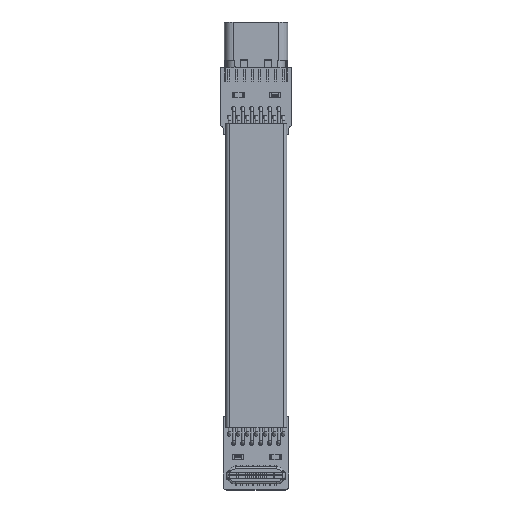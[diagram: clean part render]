
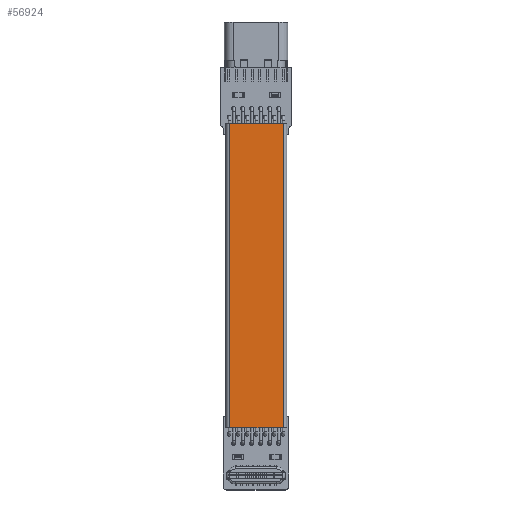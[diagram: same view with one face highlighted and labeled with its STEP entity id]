
A CAD part, top view. The second image highlights one B-rep face of the part: STEP entity #56924.
In plain terms, the highlighted planar face has unit normal (0, 0, 1) as drawn and (0, 1, 0) by its records, which use the part's own axes.
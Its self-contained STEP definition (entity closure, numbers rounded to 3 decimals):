
#56448 = VERTEX_POINT('',#56449);
#56449 = CARTESIAN_POINT('',(-0.001,-0.201,43.));
#56456 = EDGE_CURVE('',#56448,#56457,#56459,.T.);
#56457 = VERTEX_POINT('',#56458);
#56458 = CARTESIAN_POINT('',(-7.621,-0.201,43.));
#56459 = LINE('',#56460,#56461);
#56460 = CARTESIAN_POINT('',(-7.621,-0.201,43.));
#56461 = VECTOR('',#56462,1.);
#56462 = DIRECTION('',(-1.,0.,0.));
#56625 = VERTEX_POINT('',#56626);
#56626 = CARTESIAN_POINT('',(-0.001,-0.201,
    0.));
#56642 = VERTEX_POINT('',#56643);
#56643 = CARTESIAN_POINT('',(-7.621,-0.201,0.));
#56650 = EDGE_CURVE('',#56625,#56642,#56651,.T.);
#56651 = LINE('',#56652,#56653);
#56652 = CARTESIAN_POINT('',(-7.621,-0.201,0.));
#56653 = VECTOR('',#56654,1.);
#56654 = DIRECTION('',(-1.,0.,0.));
#56880 = EDGE_CURVE('',#56625,#56448,#56881,.T.);
#56881 = LINE('',#56882,#56883);
#56882 = CARTESIAN_POINT('',(-0.001,-0.201,
    0.));
#56883 = VECTOR('',#56884,1.);
#56884 = DIRECTION('',(0.,0.,1.));
#56912 = EDGE_CURVE('',#56642,#56457,#56913,.T.);
#56913 = LINE('',#56914,#56915);
#56914 = CARTESIAN_POINT('',(-7.621,-0.201,0.));
#56915 = VECTOR('',#56916,1.);
#56916 = DIRECTION('',(0.,0.,1.));
#56924 = ADVANCED_FACE('',(#56925),#56931,.T.);
#56925 = FACE_BOUND('',#56926,.T.);
#56926 = EDGE_LOOP('',(#56927,#56928,#56929,#56930));
#56927 = ORIENTED_EDGE('',*,*,#56456,.F.);
#56928 = ORIENTED_EDGE('',*,*,#56880,.F.);
#56929 = ORIENTED_EDGE('',*,*,#56650,.T.);
#56930 = ORIENTED_EDGE('',*,*,#56912,.T.);
#56931 = PLANE('',#56932);
#56932 = AXIS2_PLACEMENT_3D('',#56933,#56934,#56935);
#56933 = CARTESIAN_POINT('',(-7.621,-0.201,0.));
#56934 = DIRECTION('',(0.,1.,0.));
#56935 = DIRECTION('',(0.,0.,1.));
